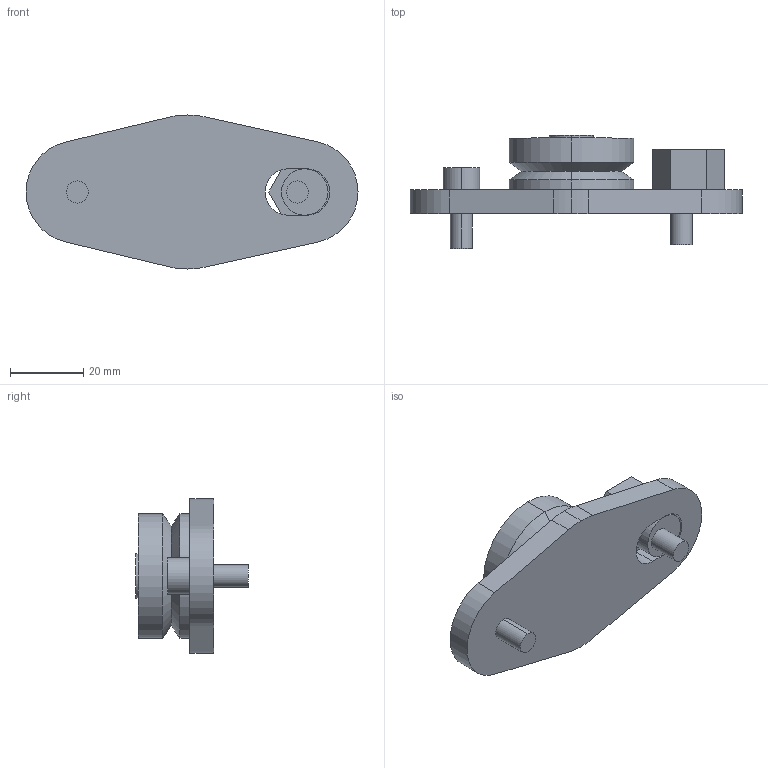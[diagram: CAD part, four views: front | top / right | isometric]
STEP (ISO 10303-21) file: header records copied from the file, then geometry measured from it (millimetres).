
FILE_DESCRIPTION(('STEP AP203'),'1');
FILE_NAME('bhj_34_e.stp','2021-08-02T12:45:34',('TraceParts'),('TraceParts S.A.'),'Spatial InterOp 3D',' ',' ');
FILE_SCHEMA(('CONFIG_CONTROL_DESIGN'));
Length unit declared in the file: millimetre
Products named in the file (1): 1
Bounding box: 90.5 x 30.8 x 42 mm (x, y, z)
Volume: 33748.7 mm3; surface area: 10986.8 mm2
Topology: 2 solids, 2 shells, 72 faces, 168 edges, 110 vertices
Faces by surface type: plane 44, cylinder 24, cone 4
Entity records: 2106 total; most frequent: DIRECTION 366, CARTESIAN_POINT 352, ORIENTED_EDGE 336, EDGE_CURVE 168, AXIS2_PLACEMENT_3D 124, LINE 118, VECTOR 118, VERTEX_POINT 110
